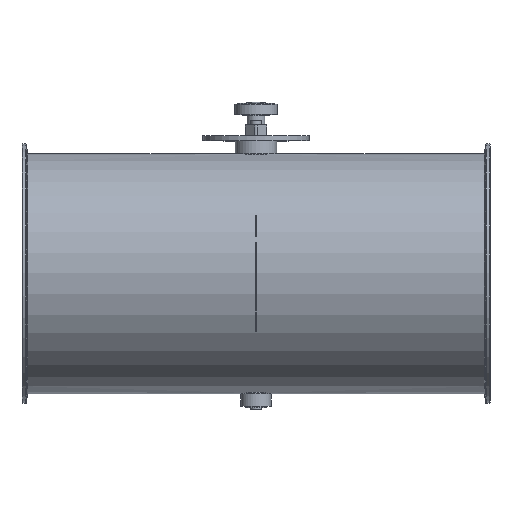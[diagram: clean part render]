
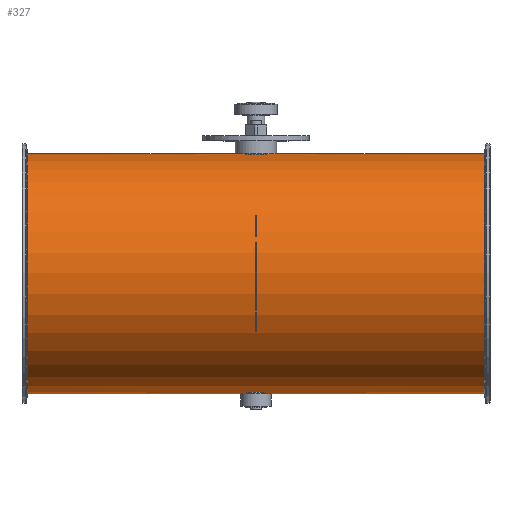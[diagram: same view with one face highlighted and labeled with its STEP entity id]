
A CAD part, top view. The second image highlights one B-rep face of the part: STEP entity #327.
In plain terms, the highlighted cylindrical face has radius 112.8 mm (diameter 225.6 mm), a full revolution.
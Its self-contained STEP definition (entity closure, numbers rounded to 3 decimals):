
#105=B_SPLINE_CURVE_WITH_KNOTS('',3,(#1957,#1958,#1959,#1960,#1961,#1962,
#1963,#1964,#1965,#1966,#1967,#1968,#1969,#1970,#1971,#1972,#1973,#1974),
 .UNSPECIFIED.,.T.,.F.,(2,2,2,2,2,2,2,2,2,2,2),(-0.125,0.,0.125,
0.25,0.375,0.5,0.625,
0.75,0.875,1.,1.125),.UNSPECIFIED.);
#106=B_SPLINE_CURVE_WITH_KNOTS('',3,(#1976,#1977,#1978,#1979,#1980,#1981,
#1982,#1983,#1984,#1985,#1986,#1987,#1988,#1989,#1990,#1991,#1992,#1993),
 .UNSPECIFIED.,.T.,.F.,(2,2,2,2,2,2,2,2,2,2,2),(-0.125,0.,0.125,0.25,0.375,
0.5,0.625,0.75,0.875,1.,1.125),.UNSPECIFIED.);
#261=CYLINDRICAL_SURFACE('',#1329,112.8);
#327=ADVANCED_FACE('',(#479,#480,#481,#482),#261,.T.);
#479=FACE_BOUND('',#637,.T.);
#480=FACE_BOUND('',#638,.T.);
#481=FACE_BOUND('',#639,.T.);
#482=FACE_BOUND('',#640,.T.);
#637=EDGE_LOOP('',(#873));
#638=EDGE_LOOP('',(#874));
#639=EDGE_LOOP('',(#875));
#640=EDGE_LOOP('',(#876));
#873=ORIENTED_EDGE('',*,*,#1125,.T.);
#874=ORIENTED_EDGE('',*,*,#1126,.F.);
#875=ORIENTED_EDGE('',*,*,#1127,.F.);
#876=ORIENTED_EDGE('',*,*,#1128,.T.);
#1007=VERTEX_POINT('',#1956);
#1008=VERTEX_POINT('',#1975);
#1009=VERTEX_POINT('',#1994);
#1010=VERTEX_POINT('',#1996);
#1125=EDGE_CURVE('',#1007,#1007,#1201,.T.);
#1126=EDGE_CURVE('',#1008,#1008,#105,.T.);
#1127=EDGE_CURVE('',#1009,#1009,#106,.T.);
#1128=EDGE_CURVE('',#1010,#1010,#1202,.T.);
#1201=CIRCLE('',#1327,112.8);
#1202=CIRCLE('',#1328,112.8);
#1327=AXIS2_PLACEMENT_3D('',#1955,#1625,#1626);
#1328=AXIS2_PLACEMENT_3D('',#1995,#1627,#1628);
#1329=AXIS2_PLACEMENT_3D('',#1997,#1629,#1630);
#1625=DIRECTION('',(-1.,0.,0.));
#1626=DIRECTION('',(0.,0.,-1.));
#1627=DIRECTION('',(1.,0.,0.));
#1628=DIRECTION('',(0.,0.,1.));
#1629=DIRECTION('',(1.,0.,0.));
#1630=DIRECTION('',(0.,0.,-1.));
#1955=CARTESIAN_POINT('',(214.804,-51.,125.));
#1956=CARTESIAN_POINT('',(214.804,-51.,12.2));
#1957=CARTESIAN_POINT('',(2.644,61.356,115.));
#1958=CARTESIAN_POINT('',(-2.644,61.356,115.));
#1959=CARTESIAN_POINT('',(-5.228,61.462,116.085));
#1960=CARTESIAN_POINT('',(-8.916,61.694,119.774));
#1961=CARTESIAN_POINT('',(-9.999,61.8,122.385));
#1962=CARTESIAN_POINT('',(-10.001,61.8,127.605));
#1963=CARTESIAN_POINT('',(-8.941,61.696,130.2));
#1964=CARTESIAN_POINT('',(-5.208,61.461,133.936));
#1965=CARTESIAN_POINT('',(-2.615,61.356,134.999));
#1966=CARTESIAN_POINT('',(2.607,61.356,135.001));
#1967=CARTESIAN_POINT('',(5.219,61.462,133.92));
#1968=CARTESIAN_POINT('',(8.91,61.694,130.236));
#1969=CARTESIAN_POINT('',(9.997,61.8,127.651));
#1970=CARTESIAN_POINT('',(10.003,61.8,122.368));
#1971=CARTESIAN_POINT('',(8.92,61.694,119.781));
#1972=CARTESIAN_POINT('',(5.233,61.463,116.088));
#1973=CARTESIAN_POINT('',(2.644,61.356,115.));
#1974=CARTESIAN_POINT('',(-2.644,61.356,115.));
#1975=CARTESIAN_POINT('',(0.,61.356,115.));
#1976=CARTESIAN_POINT('',(-2.644,-163.356,115.));
#1977=CARTESIAN_POINT('',(2.644,-163.356,115.));
#1978=CARTESIAN_POINT('',(5.228,-163.462,116.085));
#1979=CARTESIAN_POINT('',(8.916,-163.694,119.774));
#1980=CARTESIAN_POINT('',(9.999,-163.8,122.385));
#1981=CARTESIAN_POINT('',(10.001,-163.8,127.605));
#1982=CARTESIAN_POINT('',(8.941,-163.696,130.2));
#1983=CARTESIAN_POINT('',(5.208,-163.461,133.936));
#1984=CARTESIAN_POINT('',(2.615,-163.356,134.999));
#1985=CARTESIAN_POINT('',(-2.607,-163.356,135.001));
#1986=CARTESIAN_POINT('',(-5.219,-163.462,133.92));
#1987=CARTESIAN_POINT('',(-8.91,-163.694,130.236));
#1988=CARTESIAN_POINT('',(-9.997,-163.8,127.651));
#1989=CARTESIAN_POINT('',(-10.003,-163.8,122.368));
#1990=CARTESIAN_POINT('',(-8.92,-163.694,119.781));
#1991=CARTESIAN_POINT('',(-5.233,-163.463,116.088));
#1992=CARTESIAN_POINT('',(-2.644,-163.356,115.));
#1993=CARTESIAN_POINT('',(2.644,-163.356,115.));
#1994=CARTESIAN_POINT('',(0.,-163.356,115.));
#1995=CARTESIAN_POINT('',(-214.804,-51.,125.));
#1996=CARTESIAN_POINT('',(-214.804,-51.,237.8));
#1997=CARTESIAN_POINT('',(-220.,-51.,125.));
